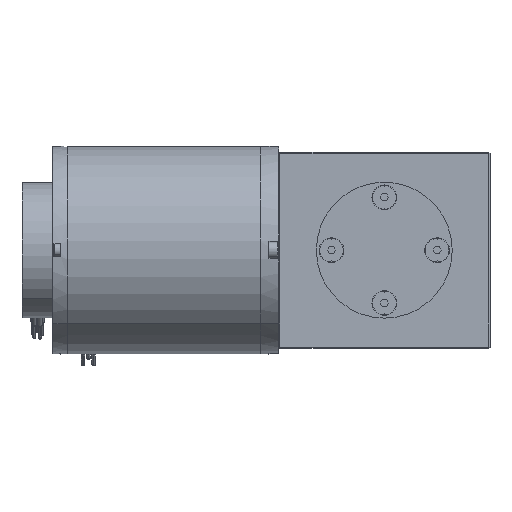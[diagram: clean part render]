
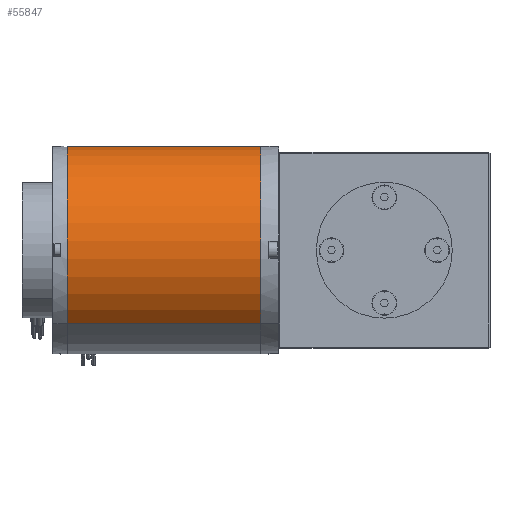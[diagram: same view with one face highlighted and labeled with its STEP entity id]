
A CAD part, left-side view. The second image highlights one B-rep face of the part: STEP entity #55847.
In plain terms, the highlighted cylindrical face has radius 43.69 mm (diameter 87.38 mm), a partial arc.
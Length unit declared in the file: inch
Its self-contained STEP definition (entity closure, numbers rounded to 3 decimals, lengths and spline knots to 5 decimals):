
#38 = CIRCLE ( 'NONE', #41637, 1.72008 ) ;
#775 = DIRECTION ( 'NONE',  ( 0., -1., 0. ) ) ;
#3055 = AXIS2_PLACEMENT_3D ( 'NONE', #26084, #3901, #53607 ) ;
#3901 = DIRECTION ( 'NONE',  ( 0., 1., 0. ) ) ;
#5014 = CARTESIAN_POINT ( 'NONE',  ( -2.29269, 0.86667, 3.03396 ) ) ;
#6800 = ORIENTED_EDGE ( 'NONE', *, *, #45009, .F. ) ;
#7810 = ORIENTED_EDGE ( 'NONE', *, *, #12282, .T. ) ;
#9930 = VERTEX_POINT ( 'NONE', #13016 ) ;
#10113 = LINE ( 'NONE', #31712, #19944 ) ;
#12197 = EDGE_CURVE ( 'NONE', #58208, #9930, #28123, .T. ) ;
#12282 = EDGE_CURVE ( 'NONE', #49487, #21451, #38, .T. ) ;
#13016 = CARTESIAN_POINT ( 'NONE',  ( -2.29269, 5.73179, 3.03396 ) ) ;
#13913 = DIRECTION ( 'NONE',  ( -0.707, 0., -0.707 ) ) ;
#18171 = CARTESIAN_POINT ( 'NONE',  ( -2.29269, 8.92982, 3.03396 ) ) ;
#18674 = AXIS2_PLACEMENT_3D ( 'NONE', #35938, #44970, #36139 ) ;
#19230 = EDGE_CURVE ( 'NONE', #58208, #49487, #10113, .T. ) ;
#19944 = VECTOR ( 'NONE', #37214, 39.37008 ) ;
#20540 = CYLINDRICAL_SURFACE ( 'NONE', #3055, 1.72008 ) ;
#21451 = VERTEX_POINT ( 'NONE', #18171 ) ;
#22079 = DIRECTION ( 'NONE',  ( 0., 1., 0. ) ) ;
#23014 = LINE ( 'NONE', #5014, #29283 ) ;
#26084 = CARTESIAN_POINT ( 'NONE',  ( -1.07641, 0.86667, 4.25024 ) ) ;
#28123 = CIRCLE ( 'NONE', #18674, 1.72008 ) ;
#29283 = VECTOR ( 'NONE', #22079, 39.37008 ) ;
#31712 = CARTESIAN_POINT ( 'NONE',  ( 0.13987, 0.86667, 5.46651 ) ) ;
#35341 = FACE_OUTER_BOUND ( 'NONE', #40208, .T. ) ;
#35938 = CARTESIAN_POINT ( 'NONE',  ( -1.07641, 5.73179, 4.25024 ) ) ;
#36139 = DIRECTION ( 'NONE',  ( -0.707, 0., -0.707 ) ) ;
#36347 = CARTESIAN_POINT ( 'NONE',  ( -1.07641, 8.92982, 4.25024 ) ) ;
#37214 = DIRECTION ( 'NONE',  ( 0., 1., 0. ) ) ;
#39718 = ORIENTED_EDGE ( 'NONE', *, *, #19230, .T. ) ;
#40208 = EDGE_LOOP ( 'NONE', ( #6800, #54784, #39718, #7810 ) ) ;
#41637 = AXIS2_PLACEMENT_3D ( 'NONE', #36347, #775, #13913 ) ;
#44970 = DIRECTION ( 'NONE',  ( 0., -1., 0. ) ) ;
#45009 = EDGE_CURVE ( 'NONE', #9930, #21451, #23014, .T. ) ;
#49487 = VERTEX_POINT ( 'NONE', #55166 ) ;
#52421 = CARTESIAN_POINT ( 'NONE',  ( 0.13987, 5.73179, 5.46651 ) ) ;
#53607 = DIRECTION ( 'NONE',  ( 0.707, 0., 0.707 ) ) ;
#54784 = ORIENTED_EDGE ( 'NONE', *, *, #12197, .F. ) ;
#55166 = CARTESIAN_POINT ( 'NONE',  ( 0.13987, 8.92982, 5.46651 ) ) ;
#55847 = ADVANCED_FACE ( 'NONE', ( #35341 ), #20540, .T. ) ;
#58208 = VERTEX_POINT ( 'NONE', #52421 ) ;
